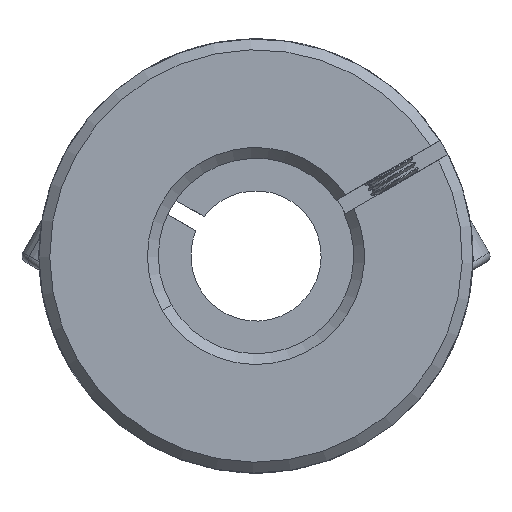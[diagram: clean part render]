
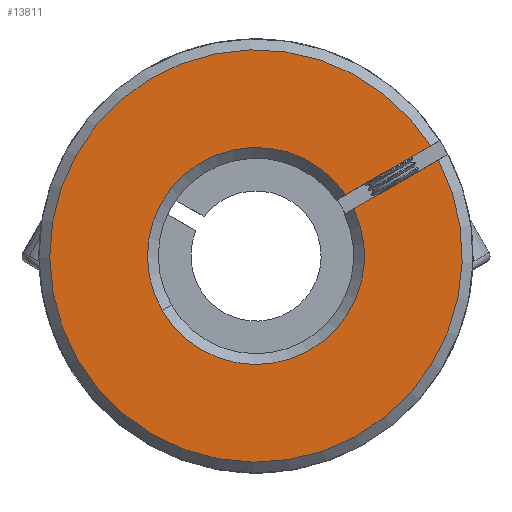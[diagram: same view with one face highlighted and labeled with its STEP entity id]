
A CAD part, front view. The second image highlights one B-rep face of the part: STEP entity #13811.
In plain terms, the highlighted planar face has unit normal (0, -1, 0).
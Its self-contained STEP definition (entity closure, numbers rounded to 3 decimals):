
#182 = CARTESIAN_POINT ( 'NONE',  ( 15.367, -31.239, 48.848 ) ) ;
#1585 = DIRECTION ( 'NONE',  ( 0.5, 0., -0.866 ) ) ;
#1755 = VERTEX_POINT ( 'NONE', #2616 ) ;
#1804 = VERTEX_POINT ( 'NONE', #8448 ) ;
#2134 = CIRCLE ( 'NONE', #8309, 10. ) ;
#2375 = CIRCLE ( 'NONE', #3331, 10. ) ;
#2616 = CARTESIAN_POINT ( 'NONE',  ( 7.562, -31.239, 44.339 ) ) ;
#2907 = EDGE_CURVE ( 'NONE', #1755, #6841, #13099, .T. ) ;
#3121 = EDGE_LOOP ( 'NONE', ( #7546, #11965, #8817, #9934, #11044 ) ) ;
#3287 = EDGE_CURVE ( 'NONE', #1804, #5757, #2134, .T. ) ;
#3331 = AXIS2_PLACEMENT_3D ( 'NONE', #11308, #4775, #13421 ) ;
#3958 = VECTOR ( 'NONE', #13700, 1000. ) ;
#4449 = EDGE_CURVE ( 'NONE', #1755, #1804, #2375, .T. ) ;
#4638 = FACE_OUTER_BOUND ( 'NONE', #3121, .T. ) ;
#4775 = DIRECTION ( 'NONE',  ( 0., 1., 0. ) ) ;
#5169 = VECTOR ( 'NONE', #11768, 1000. ) ;
#5637 = DIRECTION ( 'NONE',  ( 0.5, 0., -0.866 ) ) ;
#5757 = VERTEX_POINT ( 'NONE', #7949 ) ;
#5788 = DIRECTION ( 'NONE',  ( 0., -1., 0. ) ) ;
#6369 = VERTEX_POINT ( 'NONE', #9488 ) ;
#6841 = VERTEX_POINT ( 'NONE', #182 ) ;
#6920 = CARTESIAN_POINT ( 'NONE',  ( -1.447, -31.239, 40. ) ) ;
#7511 = EDGE_CURVE ( 'NONE', #6369, #5757, #11711, .T. ) ;
#7546 = ORIENTED_EDGE ( 'NONE', *, *, #2907, .F. ) ;
#7922 = AXIS2_PLACEMENT_3D ( 'NONE', #12615, #8322, #1585 ) ;
#7949 = CARTESIAN_POINT ( 'NONE',  ( 6.812, -31.239, 45.638 ) ) ;
#8126 = EDGE_CURVE ( 'NONE', #6369, #6841, #10194, .T. ) ;
#8309 = AXIS2_PLACEMENT_3D ( 'NONE', #9468, #13866, #11632 ) ;
#8322 = DIRECTION ( 'NONE',  ( 0., 1., 0. ) ) ;
#8448 = CARTESIAN_POINT ( 'NONE',  ( -10.106, -31.239, 34.997 ) ) ;
#8817 = ORIENTED_EDGE ( 'NONE', *, *, #3287, .T. ) ;
#9468 = CARTESIAN_POINT ( 'NONE',  ( -1.447, -31.239, 40. ) ) ;
#9488 = CARTESIAN_POINT ( 'NONE',  ( 14.616, -31.239, 50.147 ) ) ;
#9934 = ORIENTED_EDGE ( 'NONE', *, *, #7511, .F. ) ;
#10194 = CIRCLE ( 'NONE', #13631, 19. ) ;
#10207 = PLANE ( 'NONE',  #7922 ) ;
#11044 = ORIENTED_EDGE ( 'NONE', *, *, #8126, .T. ) ;
#11308 = CARTESIAN_POINT ( 'NONE',  ( -1.447, -31.239, 40. ) ) ;
#11473 = CARTESIAN_POINT ( 'NONE',  ( 5.943, -31.239, 45.136 ) ) ;
#11632 = DIRECTION ( 'NONE',  ( 0.5, 0., -0.866 ) ) ;
#11711 = LINE ( 'NONE', #11473, #3958 ) ;
#11768 = DIRECTION ( 'NONE',  ( 0.866, 0., 0.5 ) ) ;
#11854 = CARTESIAN_POINT ( 'NONE',  ( 6.694, -31.239, 43.837 ) ) ;
#11965 = ORIENTED_EDGE ( 'NONE', *, *, #4449, .T. ) ;
#12615 = CARTESIAN_POINT ( 'NONE',  ( 52.98, -31.239, 45.743 ) ) ;
#13099 = LINE ( 'NONE', #11854, #5169 ) ;
#13421 = DIRECTION ( 'NONE',  ( 0.5, 0., -0.866 ) ) ;
#13631 = AXIS2_PLACEMENT_3D ( 'NONE', #6920, #5788, #5637 ) ;
#13700 = DIRECTION ( 'NONE',  ( -0.866, 0., -0.5 ) ) ;
#13811 = ADVANCED_FACE ( 'NONE', ( #4638 ), #10207, .F. ) ;
#13866 = DIRECTION ( 'NONE',  ( 0., 1., 0. ) ) ;
